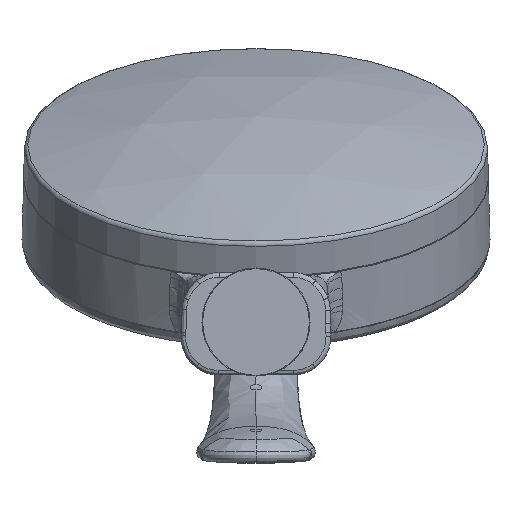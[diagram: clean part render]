
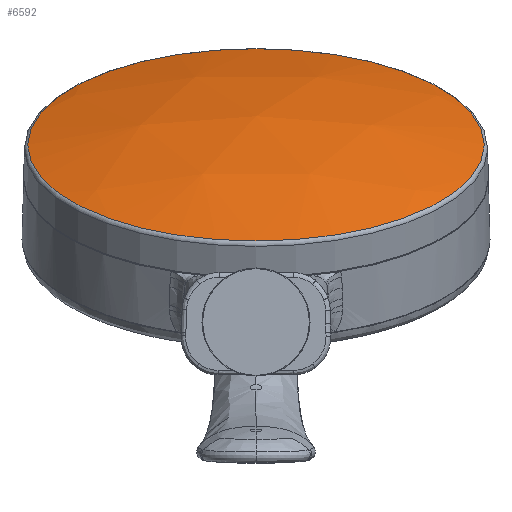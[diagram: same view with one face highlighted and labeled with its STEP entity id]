
A CAD part, front view. The second image highlights one B-rep face of the part: STEP entity #6592.
In plain terms, the highlighted spherical face has radius 181.075 mm.
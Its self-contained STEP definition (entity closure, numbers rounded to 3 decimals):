
#281 = VERTEX_POINT ( 'NONE', #12840 ) ;
#1158 = DIRECTION ( 'NONE',  ( 1., 0., 0. ) ) ;
#1473 = AXIS2_PLACEMENT_3D ( 'NONE', #8365, #11168, #1158 ) ;
#5494 = CARTESIAN_POINT ( 'NONE',  ( 0., 77.446, 38.131 ) ) ;
#6550 = DIRECTION ( 'NONE',  ( 0., 0.907, 0.421 ) ) ;
#6592 = ADVANCED_FACE ( 'NONE', ( #9456 ), #9473, .T. ) ;
#7916 = EDGE_CURVE ( 'NONE', #281, #281, #8063, .T. ) ;
#8063 = CIRCLE ( 'NONE', #8169, 49.145 ) ;
#8148 = EDGE_LOOP ( 'NONE', ( #9185 ) ) ;
#8169 = AXIS2_PLACEMENT_3D ( 'NONE', #5494, #12344, #6550 ) ;
#8365 = CARTESIAN_POINT ( 'NONE',  ( 0., 150.823, -119.948 ) ) ;
#9185 = ORIENTED_EDGE ( 'NONE', *, *, #7916, .T. ) ;
#9456 = FACE_OUTER_BOUND ( 'NONE', #8148, .T. ) ;
#9473 = SPHERICAL_SURFACE ( 'NONE', #1473, 181.075 ) ;
#11168 = DIRECTION ( 'NONE',  ( 0., 1., 0. ) ) ;
#12344 = DIRECTION ( 'NONE',  ( 0., -0.421, 0.907 ) ) ;
#12840 = CARTESIAN_POINT ( 'NONE',  ( 0., 122.022, 58.823 ) ) ;
